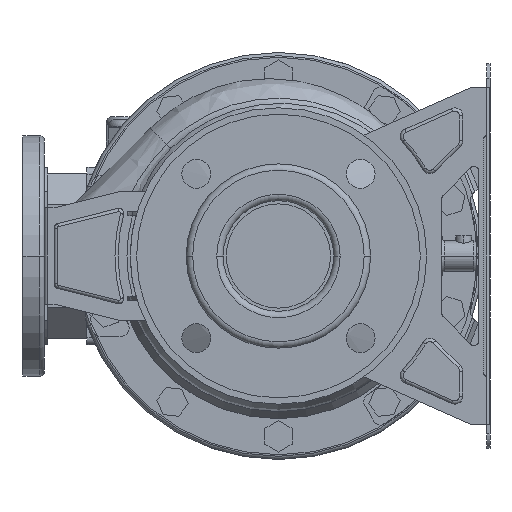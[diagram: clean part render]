
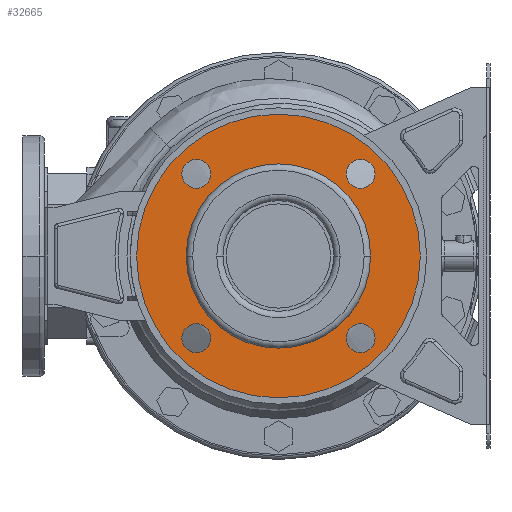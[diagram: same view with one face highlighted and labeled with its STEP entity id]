
A CAD part, left-side view. The second image highlights one B-rep face of the part: STEP entity #32665.
In plain terms, the highlighted planar face has unit normal (-1, 0, 0).
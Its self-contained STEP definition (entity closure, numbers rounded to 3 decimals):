
#31998=CARTESIAN_POINT('',(12.,0.,0.));
#31999=DIRECTION('',(-1.,0.,0.));
#32000=DIRECTION('',(0.,1.,0.));
#32001=AXIS2_PLACEMENT_3D('',#31998,#31999,#32000);
#32006=CARTESIAN_POINT('',(12.,0.,0.));
#32007=DIRECTION('',(1.,0.,0.));
#32008=DIRECTION('',(0.,1.,0.));
#32009=AXIS2_PLACEMENT_3D('',#32006,#32007,#32008);
#32014=CARTESIAN_POINT('',(12.,-51.265,51.265));
#32015=DIRECTION('',(1.,0.,0.));
#32016=DIRECTION('',(0.,1.,0.));
#32017=AXIS2_PLACEMENT_3D('',#32014,#32015,#32016);
#32022=CARTESIAN_POINT('',(12.,-51.265,51.265));
#32023=DIRECTION('',(1.,0.,0.));
#32024=DIRECTION('',(0.,-1.,0.));
#32025=AXIS2_PLACEMENT_3D('',#32022,#32023,#32024);
#32030=CARTESIAN_POINT('',(12.,-51.265,-51.265));
#32031=DIRECTION('',(1.,0.,0.));
#32032=DIRECTION('',(0.,0.,1.));
#32033=AXIS2_PLACEMENT_3D('',#32030,#32031,#32032);
#32038=CARTESIAN_POINT('',(12.,-51.265,-51.265));
#32039=DIRECTION('',(1.,0.,0.));
#32040=DIRECTION('',(0.,0.,-1.));
#32041=AXIS2_PLACEMENT_3D('',#32038,#32039,#32040);
#32046=CARTESIAN_POINT('',(12.,51.265,-51.265));
#32047=DIRECTION('',(1.,0.,0.));
#32048=DIRECTION('',(0.,-1.,0.));
#32049=AXIS2_PLACEMENT_3D('',#32046,#32047,#32048);
#32054=CARTESIAN_POINT('',(12.,51.265,-51.265));
#32055=DIRECTION('',(1.,0.,0.));
#32056=DIRECTION('',(0.,1.,0.));
#32057=AXIS2_PLACEMENT_3D('',#32054,#32055,#32056);
#32062=CARTESIAN_POINT('',(12.,51.265,51.265));
#32063=DIRECTION('',(1.,0.,0.));
#32064=DIRECTION('',(0.,0.,-1.));
#32065=AXIS2_PLACEMENT_3D('',#32062,#32063,#32064);
#32070=CARTESIAN_POINT('',(12.,51.265,51.265));
#32071=DIRECTION('',(1.,0.,0.));
#32072=DIRECTION('',(0.,0.,1.));
#32073=AXIS2_PLACEMENT_3D('',#32070,#32071,#32072);
#32078=CARTESIAN_POINT('',(12.,0.,0.));
#32079=DIRECTION('',(1.,0.,0.));
#32080=DIRECTION('',(0.,1.,0.));
#32081=AXIS2_PLACEMENT_3D('',#32078,#32079,#32080);
#32100=CARTESIAN_POINT('',(12.,0.,0.));
#32101=DIRECTION('',(-1.,0.,0.));
#32102=DIRECTION('',(0.,1.,0.));
#32103=AXIS2_PLACEMENT_3D('',#32100,#32101,#32102);
#32265=CARTESIAN_POINT('',(12.,88.5,0.));
#32267=VERTEX_POINT('',#32265);
#32268=CARTESIAN_POINT('',(12.,57.5,0.));
#32270=VERTEX_POINT('',#32268);
#32297=CARTESIAN_POINT('',(12.,-88.5,0.));
#32299=VERTEX_POINT('',#32297);
#32300=CARTESIAN_POINT('',(12.,-57.5,0.));
#32302=VERTEX_POINT('',#32300);
#32312=CARTESIAN_POINT('',(12.,-42.265,51.265));
#32313=CARTESIAN_POINT('',(12.,-60.265,51.265));
#32314=VERTEX_POINT('',#32312);
#32315=VERTEX_POINT('',#32313);
#32320=CARTESIAN_POINT('',(12.,-51.265,-42.265));
#32321=CARTESIAN_POINT('',(12.,-51.265,-60.265));
#32322=VERTEX_POINT('',#32320);
#32323=VERTEX_POINT('',#32321);
#32328=CARTESIAN_POINT('',(12.,42.265,-51.265));
#32329=CARTESIAN_POINT('',(12.,60.265,-51.265));
#32330=VERTEX_POINT('',#32328);
#32331=VERTEX_POINT('',#32329);
#32336=CARTESIAN_POINT('',(12.,51.265,42.265));
#32337=CARTESIAN_POINT('',(12.,51.265,60.265));
#32338=VERTEX_POINT('',#32336);
#32339=VERTEX_POINT('',#32337);
#32626=CARTESIAN_POINT('',(12.,0.,0.));
#32627=DIRECTION('',(1.,0.,0.));
#32628=DIRECTION('',(0.,-1.,0.));
#32629=AXIS2_PLACEMENT_3D('',#32626,#32627,#32628);
#32630=PLANE('',#32629);
#32631=ORIENTED_EDGE('',*,*,#32619,.F.);
#32632=ORIENTED_EDGE('',*,*,#32608,.T.);
#32633=EDGE_LOOP('',(#32631,#32632));
#32634=FACE_OUTER_BOUND('',#32633,.F.);
#32636=ORIENTED_EDGE('',*,*,#32635,.F.);
#32638=ORIENTED_EDGE('',*,*,#32637,.T.);
#32639=EDGE_LOOP('',(#32636,#32638));
#32640=FACE_BOUND('',#32639,.F.);
#32642=ORIENTED_EDGE('',*,*,#32641,.F.);
#32644=ORIENTED_EDGE('',*,*,#32643,.F.);
#32645=EDGE_LOOP('',(#32642,#32644));
#32646=FACE_BOUND('',#32645,.F.);
#32648=ORIENTED_EDGE('',*,*,#32647,.F.);
#32650=ORIENTED_EDGE('',*,*,#32649,.F.);
#32651=EDGE_LOOP('',(#32648,#32650));
#32652=FACE_BOUND('',#32651,.F.);
#32654=ORIENTED_EDGE('',*,*,#32653,.F.);
#32656=ORIENTED_EDGE('',*,*,#32655,.F.);
#32657=EDGE_LOOP('',(#32654,#32656));
#32658=FACE_BOUND('',#32657,.F.);
#32660=ORIENTED_EDGE('',*,*,#32659,.F.);
#32662=ORIENTED_EDGE('',*,*,#32661,.F.);
#32663=EDGE_LOOP('',(#32660,#32662));
#32664=FACE_BOUND('',#32663,.F.);
#32002=CIRCLE('',#32001,88.5);
#32010=CIRCLE('',#32009,88.5);
#32018=CIRCLE('',#32017,9.);
#32026=CIRCLE('',#32025,9.);
#32034=CIRCLE('',#32033,9.);
#32042=CIRCLE('',#32041,9.);
#32050=CIRCLE('',#32049,9.);
#32058=CIRCLE('',#32057,9.);
#32066=CIRCLE('',#32065,9.);
#32074=CIRCLE('',#32073,9.);
#32082=CIRCLE('',#32081,57.5);
#32104=CIRCLE('',#32103,57.5);
#32608=EDGE_CURVE('',#32267,#32299,#32010,.T.);
#32619=EDGE_CURVE('',#32267,#32299,#32002,.T.);
#32635=EDGE_CURVE('',#32270,#32302,#32082,.T.);
#32637=EDGE_CURVE('',#32270,#32302,#32104,.T.);
#32641=EDGE_CURVE('',#32314,#32315,#32018,.T.);
#32643=EDGE_CURVE('',#32315,#32314,#32026,.T.);
#32647=EDGE_CURVE('',#32322,#32323,#32034,.T.);
#32649=EDGE_CURVE('',#32323,#32322,#32042,.T.);
#32653=EDGE_CURVE('',#32330,#32331,#32050,.T.);
#32655=EDGE_CURVE('',#32331,#32330,#32058,.T.);
#32659=EDGE_CURVE('',#32338,#32339,#32066,.T.);
#32661=EDGE_CURVE('',#32339,#32338,#32074,.T.);
#32665=ADVANCED_FACE('',(#32634,#32640,#32646,#32652,#32658,#32664),#32630,.F.);
